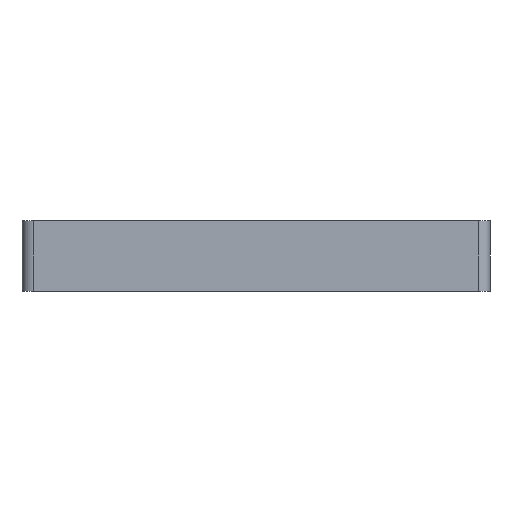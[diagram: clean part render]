
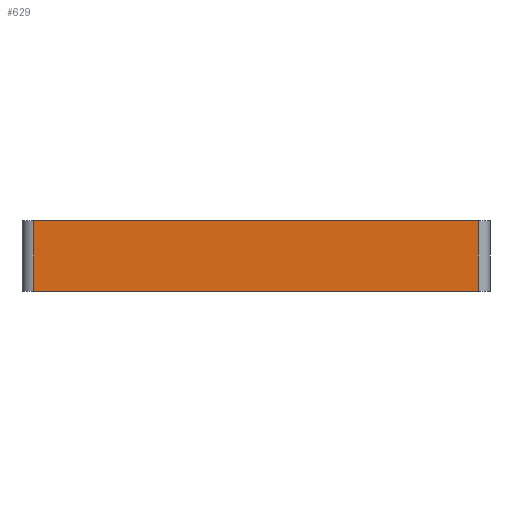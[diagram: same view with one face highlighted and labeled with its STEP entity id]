
A CAD part, front view. The second image highlights one B-rep face of the part: STEP entity #629.
In plain terms, the highlighted planar face has unit normal (0, -1, 0).
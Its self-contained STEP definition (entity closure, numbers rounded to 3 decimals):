
#7 = LINE ( 'NONE', #224, #675 ) ;
#84 = EDGE_CURVE ( 'NONE', #790, #995, #1536, .T. ) ;
#159 = CARTESIAN_POINT ( 'NONE',  ( -29.276, -38.452, 12. ) ) ;
#175 = VERTEX_POINT ( 'NONE', #1177 ) ;
#193 = ORIENTED_EDGE ( 'NONE', *, *, #84, .T. ) ;
#224 = CARTESIAN_POINT ( 'NONE',  ( -31.276, -38.452, 0. ) ) ;
#233 = EDGE_CURVE ( 'NONE', #175, #790, #7, .T. ) ;
#254 = ORIENTED_EDGE ( 'NONE', *, *, #470, .F. ) ;
#375 = CARTESIAN_POINT ( 'NONE',  ( -29.276, -38.452, 12. ) ) ;
#470 = EDGE_CURVE ( 'NONE', #673, #995, #1524, .T. ) ;
#496 = EDGE_CURVE ( 'NONE', #673, #175, #620, .T. ) ;
#516 = ORIENTED_EDGE ( 'NONE', *, *, #233, .T. ) ;
#618 = CARTESIAN_POINT ( 'NONE',  ( -31.276, -38.452, 12. ) ) ;
#620 = LINE ( 'NONE', #375, #1429 ) ;
#629 = ADVANCED_FACE ( 'NONE', ( #1282 ), #850, .F. ) ;
#673 = VERTEX_POINT ( 'NONE', #159 ) ;
#675 = VECTOR ( 'NONE', #1069, 1000. ) ;
#726 = CARTESIAN_POINT ( 'NONE',  ( -31.276, -38.452, 12. ) ) ;
#730 = DIRECTION ( 'NONE',  ( 0., 0., 1. ) ) ;
#790 = VERTEX_POINT ( 'NONE', #1386 ) ;
#850 = PLANE ( 'NONE',  #982 ) ;
#851 = DIRECTION ( 'NONE',  ( 1., 0., 0. ) ) ;
#915 = VECTOR ( 'NONE', #1541, 1000. ) ;
#919 = ORIENTED_EDGE ( 'NONE', *, *, #496, .T. ) ;
#982 = AXIS2_PLACEMENT_3D ( 'NONE', #618, #1475, #730 ) ;
#995 = VERTEX_POINT ( 'NONE', #1098 ) ;
#1069 = DIRECTION ( 'NONE',  ( 1., 0., 0. ) ) ;
#1098 = CARTESIAN_POINT ( 'NONE',  ( 46.724, -38.452, 12. ) ) ;
#1162 = EDGE_LOOP ( 'NONE', ( #516, #193, #254, #919 ) ) ;
#1177 = CARTESIAN_POINT ( 'NONE',  ( -29.276, -38.452, 0. ) ) ;
#1282 = FACE_OUTER_BOUND ( 'NONE', #1162, .T. ) ;
#1386 = CARTESIAN_POINT ( 'NONE',  ( 46.724, -38.452, 0. ) ) ;
#1411 = CARTESIAN_POINT ( 'NONE',  ( 46.724, -38.452, 12. ) ) ;
#1429 = VECTOR ( 'NONE', #1476, 1000. ) ;
#1475 = DIRECTION ( 'NONE',  ( 0., 1., 0. ) ) ;
#1476 = DIRECTION ( 'NONE',  ( 0., 0., -1. ) ) ;
#1483 = VECTOR ( 'NONE', #851, 1000. ) ;
#1524 = LINE ( 'NONE', #726, #1483 ) ;
#1536 = LINE ( 'NONE', #1411, #915 ) ;
#1541 = DIRECTION ( 'NONE',  ( 0., 0., 1. ) ) ;
